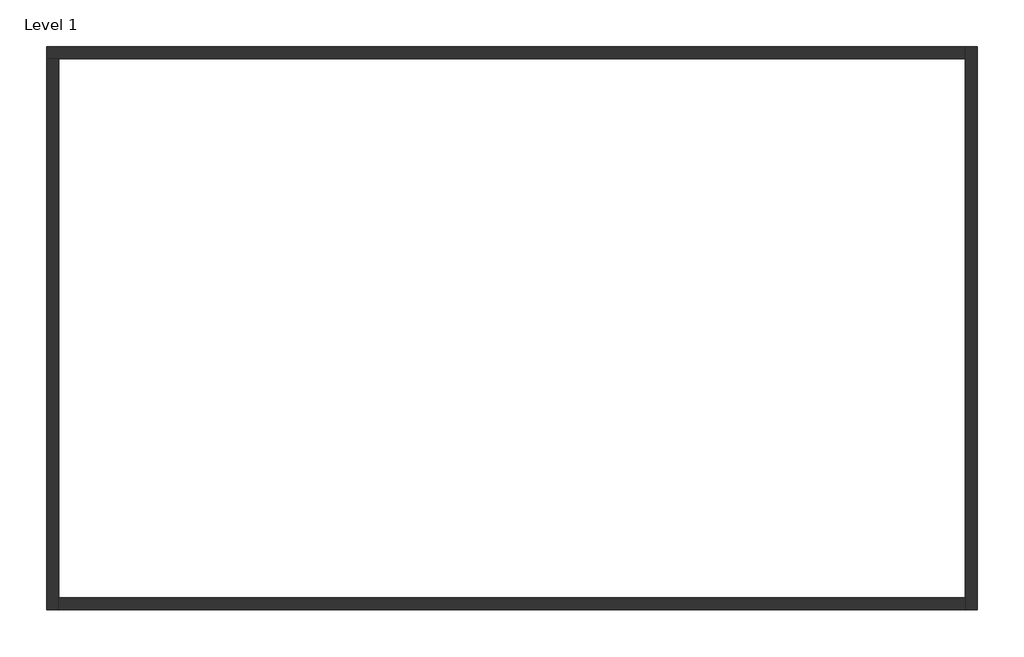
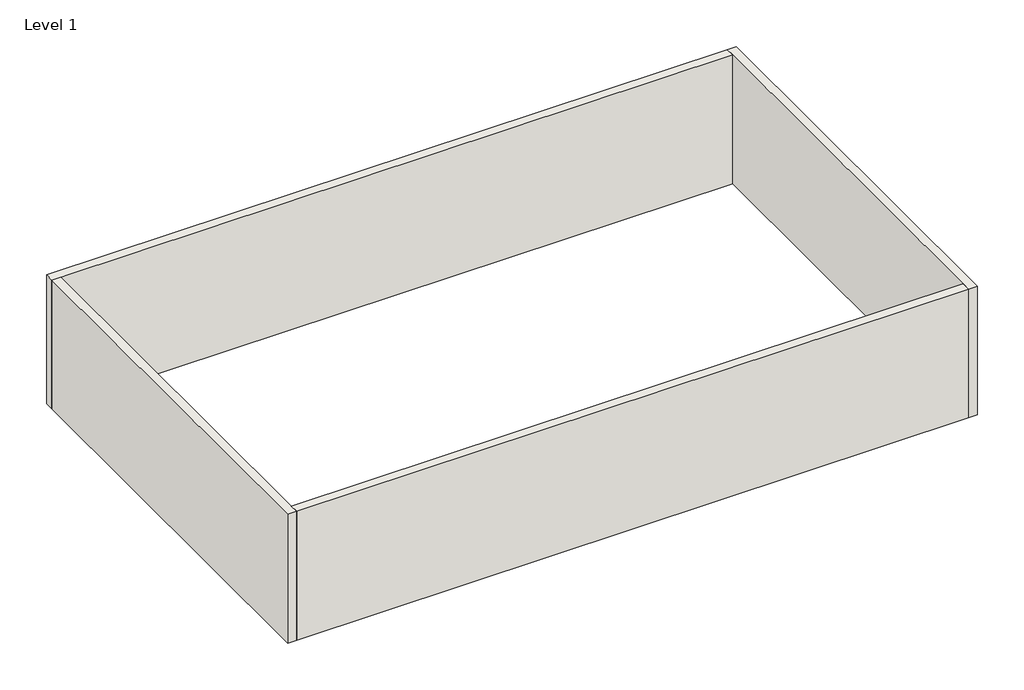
# One storey: 4 walls.
"""IFC4 building model written with IfcOpenShell, lengths in millimetres."""

import ifcopenshell
import ifcopenshell.guid

model = None  # the IFC model being written
_history = None  # IfcOwnerHistory: only IFC2X3 demands one
_inside = {}  # id of a spatial element -> (the spatial element, [elements in it])
_under = {}  # id of a project, library or spatial element -> (it, [spatial elements below it])
_declared = {}  # id of a project -> (the project, [libraries it declares])
_typed = {}  # id of a type object -> (the type object, [elements of that type])
_made_of = {}  # id of a material, layer set ... -> (it, [elements and type objects made of it])


def new_model(schema):
    """Start an empty IFC model of exactly this schema.

    Asked for "IFC4X3", IfcOpenShell would pick the latest addendum, in which some entities
    have other attributes; the version numbers below select the first issue.
    IFC2X3 requires an IfcOwnerHistory on every rooted entity: one is made here for all.
    """
    global model, _history
    if schema == "IFC4X3":
        model = ifcopenshell.file(schema_version=(4, 3, 0, 0))
    else:
        model = ifcopenshell.file(schema=schema)
    _inside.clear()
    _under.clear()
    _declared.clear()
    _typed.clear()
    _made_of.clear()
    _history = None
    if model.schema == "IFC2X3":
        org = make("IfcOrganization", Name="unknown")
        user = make(
            "IfcPersonAndOrganization",
            ThePerson=make("IfcPerson", FamilyName="unknown"),
            TheOrganization=org,
        )
        app = make(
            "IfcApplication",
            ApplicationDeveloper=org,
            Version="unknown",
            ApplicationFullName="unknown",
            ApplicationIdentifier="unknown",
        )
        _history = make(
            "IfcOwnerHistory",
            OwningUser=user,
            OwningApplication=app,
            ChangeAction="ADDED",
            CreationDate=0,
        )
    return model


def make(cls, **values):
    """One entity of the class cls with the attributes given. An attribute that is None is left unset."""
    return model.create_entity(
        cls, **{name: value for name, value in values.items() if value is not None}
    )


def rooted(cls, **values):
    """An entity with a GlobalId (a new one), such as an element, a storey or a relation."""
    return make(cls, GlobalId=ifcopenshell.guid.new(), OwnerHistory=_history, **values)


def si_unit(unit_type, name, prefix=None):
    """IfcSIUnit, for example si_unit("LENGTHUNIT", "METRE", prefix="MILLI")."""
    return make("IfcSIUnit", UnitType=unit_type, Prefix=prefix, Name=name)


def assignment(units):
    """IfcUnitAssignment: the units of a project."""
    return None if units is None else make("IfcUnitAssignment", Units=units)


def point(xyz):
    """IfcCartesianPoint."""
    return None if xyz is None else make("IfcCartesianPoint", Coordinates=xyz)


def direction(xyz):
    """IfcDirection."""
    return None if xyz is None else make("IfcDirection", DirectionRatios=xyz)


def frame(location, z_axis=None, x_axis=None):
    """IfcAxis2Placement3D, a coordinate frame: its origin and axes. An axis left out is left unset."""
    return make(
        "IfcAxis2Placement3D",
        Location=point(location),
        Axis=direction(z_axis),
        RefDirection=direction(x_axis),
    )


def origin():
    """The frame at (0, 0, 0) with its axes left unset."""
    return frame((0.0, 0.0, 0.0))


def origin_with_axes():
    """The frame at (0, 0, 0) with the z axis (0, 0, 1) and the x axis (1, 0, 0) written out."""
    return frame((0.0, 0.0, 0.0), z_axis=(0.0, 0.0, 1.0), x_axis=(1.0, 0.0, 0.0))


def place(relative_to, where):
    """IfcLocalPlacement: puts the frame where relative to a parent placement (None: the world)."""
    return make(
        "IfcLocalPlacement", PlacementRelTo=relative_to, RelativePlacement=where
    )


def context(
    kind, dimensions, precision=None, world=None, true_north=None, identifier=None
):
    """IfcGeometricRepresentationContext, for example the 3D "Model" context."""
    return make(
        "IfcGeometricRepresentationContext",
        ContextIdentifier=identifier,
        ContextType=kind,
        CoordinateSpaceDimension=dimensions,
        Precision=precision,
        WorldCoordinateSystem=world,
        TrueNorth=true_north,
    )


def project(units=None, contexts=None):
    """IfcProject with its units and contexts."""
    return rooted(
        "IfcProject",
        Name="project",
        RepresentationContexts=contexts,
        UnitsInContext=assignment(units),
    )


def spatial(cls, under=None, at=None, **own):
    """A site, building, storey or space (cls), placed at a placement, below another one or the project."""
    s = rooted(cls, ObjectPlacement=at, **own)
    if under is not None:
        _under.setdefault(under.id(), (under, []))[1].append(s)
    return s


def polyline(points):
    """IfcPolyline through the points."""
    return make("IfcPolyline", Points=[point(p) for p in points])


def outline(outer, holes=None, kind="AREA"):
    """IfcArbitraryClosedProfileDef: a profile drawn as a closed curve; with holes, ...WithVoids."""
    if holes is None:
        return make("IfcArbitraryClosedProfileDef", ProfileType=kind, OuterCurve=outer)
    return make(
        "IfcArbitraryProfileDefWithVoids",
        ProfileType=kind,
        OuterCurve=outer,
        InnerCurves=holes,
    )


def extrude(swept, where, along, depth):
    """IfcExtrudedAreaSolid: the profile swept, set in the frame where, extruded along a direction by depth."""
    return make(
        "IfcExtrudedAreaSolid",
        SweptArea=swept,
        Position=where,
        ExtrudedDirection=direction(along),
        Depth=depth,
    )


def faces_of(points, faces, orient=None, outer=None):
    """IfcFace entities. A face is a list of loops; a loop is a list of indices into points, from 0.

    orient and outer hold one flag for each loop. By default every Orientation is true, the
    first loop of a face is its IfcFaceOuterBound and the others are IfcFaceBound.
    """
    made = []
    for i, loops in enumerate(faces):
        bounds = []
        for j, loop in enumerate(loops):
            is_outer = j == 0 if outer is None else outer[i][j]
            bounds.append(
                make(
                    "IfcFaceOuterBound" if is_outer else "IfcFaceBound",
                    Bound=make("IfcPolyLoop", Polygon=[points[k] for k in loop]),
                    Orientation=True if orient is None else orient[i][j],
                )
            )
        made.append(make("IfcFace", Bounds=bounds))
    return made


def faceted_brep(points, faces, orient=None, outer=None, voids=None):
    """IfcFacetedBrep: a solid bounded by flat faces; with voids (closed shells), ...WithVoids."""
    shared = [point(p) for p in points]
    hull = make("IfcClosedShell", CfsFaces=faces_of(shared, faces, orient, outer))
    if voids is None:
        return make("IfcFacetedBrep", Outer=hull)
    return make(
        "IfcFacetedBrepWithVoids",
        Outer=hull,
        Voids=[
            make(cls, CfsFaces=faces_of(shared, fs, o, b)) for cls, fs, o, b in voids
        ],
    )


def shape(context_of_items, identifier, shape_type, items):
    """IfcShapeRepresentation: the items that make up one representation, for example the "Body"."""
    return make(
        "IfcShapeRepresentation",
        ContextOfItems=context_of_items,
        RepresentationIdentifier=identifier,
        RepresentationType=shape_type,
        Items=items,
    )


def made_of(thing, what):
    """Note that an element or type object is made of a material, layer set ...; save() writes the relation."""
    if what is not None:
        _made_of.setdefault(what.id(), (what, []))[1].append(thing)
    return thing


def element(
    cls,
    number,
    at=None,
    inside=None,
    cuts=None,
    type_object=None,
    material=None,
    context=None,
    identifier="Body",
    shape_type=None,
    held_by="IfcProductDefinitionShape",
    body=None,
    shapes=None,
    **own,
):
    """One element of the class cls, such as IfcWall. Its Tag is "e" and its number.

    at: its placement. inside: the storey or other place that contains it. cuts: it is an
    opening in that element (IfcRelVoidsElement). A single representation is given by context,
    identifier, shape_type and body (its items); several are given by shapes. held_by: the class
    of the entity that holds the representations. save() writes the other relations.
    """
    e = rooted(cls, Tag="e%d" % number, ObjectPlacement=at, **own)
    if body is not None:
        shapes = [shape(context, identifier, shape_type, body)]
    if shapes is not None:
        e.Representation = make(held_by, Representations=shapes)
    if inside is not None:
        _inside.setdefault(inside.id(), (inside, []))[1].append(e)
    if cuts is not None:
        rooted(
            "IfcRelVoidsElement", RelatingBuildingElement=cuts, RelatedOpeningElement=e
        )
    if type_object is not None:
        _typed.setdefault(type_object.id(), (type_object, []))[1].append(e)
    return made_of(e, material)


def aggregate(whole, parts):
    """IfcRelAggregates: a whole, such as a stair, and the parts it consists of."""
    return rooted("IfcRelAggregates", RelatingObject=whole, RelatedObjects=parts)


def save(model, path):
    """Write the relations noted so far, then the file.

    IfcRelAggregates (storeys below a building ...), IfcRelContainedInSpatialStructure (elements
    in a storey), IfcRelDefinesByType, IfcRelAssociatesMaterial and IfcRelDeclares: one each for
    every whole, place, type object, material and project.
    """
    for whole, parts in _under.values():
        aggregate(whole, parts)
    for where, things in _inside.values():
        rooted(
            "IfcRelContainedInSpatialStructure",
            RelatedElements=things,
            RelatingStructure=where,
        )
    for kind, things in _typed.values():
        rooted("IfcRelDefinesByType", RelatedObjects=things, RelatingType=kind)
    for what, things in _made_of.values():
        rooted("IfcRelAssociatesMaterial", RelatedObjects=things, RelatingMaterial=what)
    for by, libraries in _declared.values():
        rooted("IfcRelDeclares", RelatingContext=by, RelatedDefinitions=libraries)
    model.write(path)


model = new_model("IFC4")

# Units and contexts
model_context = context("Model", 3, world=origin())
ifc_project = project(units=[si_unit("LENGTHUNIT", "METRE", prefix="MILLI")], contexts=[model_context])

# Site, building, storey
site = spatial("IfcSite", under=ifc_project)
building = spatial("IfcBuilding", under=site)
storey = spatial("IfcBuildingStorey", under=building, Name="Level 1", Elevation=0.0)

# Walls
placement = place(None, origin())
element("IfcWall", 1, ObjectType="Generic - 8\"", at=placement, inside=storey, context=model_context, shape_type="Brep", body=[
    faceted_brep([(-7596.1466991, 6927.4122484, 0.0), (-7392.9466991, 6927.4122484, 0.0), (7643.8533009, 6927.4122484, 0.0), (7643.8533009, 6927.4122484, 3048.0), (-7392.9466991, 6927.4122484, 3048.0), (-7596.1466991, 6927.4122484, 3048.0), (-7596.1466991, 7130.6122484, 0.0), (-7596.1466991, 7130.6122484, 3048.0), (7643.8533009, 7130.6122484, 3048.0), (7643.8533009, 7130.6122484, 0.0)], [[[0, 1, 2, 3, 4, 5]], [[6, 7, 8, 9]], [[2, 1, 0, 6, 9]], [[5, 4, 3, 8, 7]], [[0, 5, 7, 6]], [[3, 2, 9, 8]]]),
])
element("IfcWall", 2, ObjectType="Generic - 8\"", at=placement, inside=storey, context=model_context, shape_type="Brep", body=[
    faceted_brep([(-7392.9466991, -2216.5877516, 0.0), (-7392.9466991, -2013.3877516, 0.0), (-7392.9466991, 6927.4122484, 0.0), (-7392.9466991, 6927.4122484, 3048.0), (-7392.9466991, -2013.3877516, 3048.0), (-7392.9466991, -2216.5877516, 3048.0), (-7596.1466991, -2216.5877516, 0.0), (-7596.1466991, -2216.5877516, 3048.0), (-7596.1466991, 6927.4122484, 3048.0), (-7596.1466991, 6927.4122484, 0.0)], [[[0, 1, 2, 3, 4, 5]], [[6, 7, 8, 9]], [[2, 1, 0, 6, 9]], [[5, 4, 3, 8, 7]], [[0, 5, 7, 6]], [[3, 2, 9, 8]]]),
])
element("IfcWall", 3, ObjectType="Generic - 8\"", at=placement, inside=storey, context=model_context, shape_type="SweptSolid", body=[
    extrude(outline(polyline([(-7392.9466991, -2013.3877516), (7643.8533009, -2013.3877516), (7643.8533009, -2216.5877516), (-7392.9466991, -2216.5877516), (-7392.9466991, -2013.3877516)])), origin_with_axes(), (0.0, 0.0, 1.0), 3048.0),
])
element("IfcWall", 4, ObjectType="Generic - 8\"", at=placement, inside=storey, context=model_context, shape_type="Brep", body=[
    faceted_brep([(7643.8533009, 7130.6122484, 0.0), (7643.8533009, 6927.4122484, 0.0), (7643.8533009, -2013.3877516, 0.0), (7643.8533009, -2216.5877516, 0.0), (7643.8533009, -2216.5877516, 3048.0), (7643.8533009, -2013.3877516, 3048.0), (7643.8533009, 6927.4122484, 3048.0), (7643.8533009, 7130.6122484, 3048.0), (7847.0533009, 7130.6122484, 0.0), (7847.0533009, 7130.6122484, 3048.0), (7847.0533009, -2216.5877516, 3048.0), (7847.0533009, -2216.5877516, 0.0)], [[[0, 1, 2, 3, 4, 5, 6, 7]], [[8, 9, 10, 11]], [[3, 2, 1, 0, 8, 11]], [[7, 6, 5, 4, 10, 9]], [[0, 7, 9, 8]], [[4, 3, 11, 10]]]),
])

save(model, "model.ifc")
